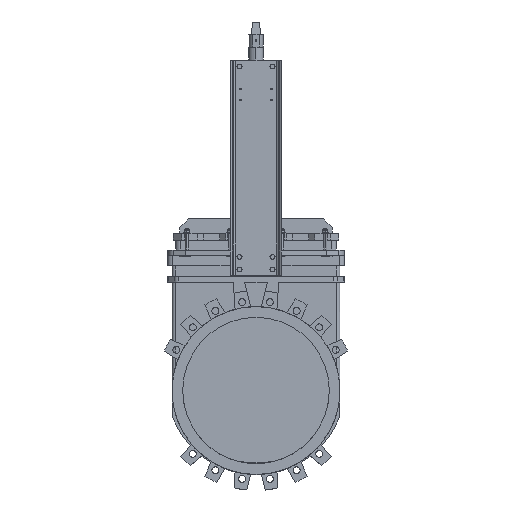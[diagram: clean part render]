
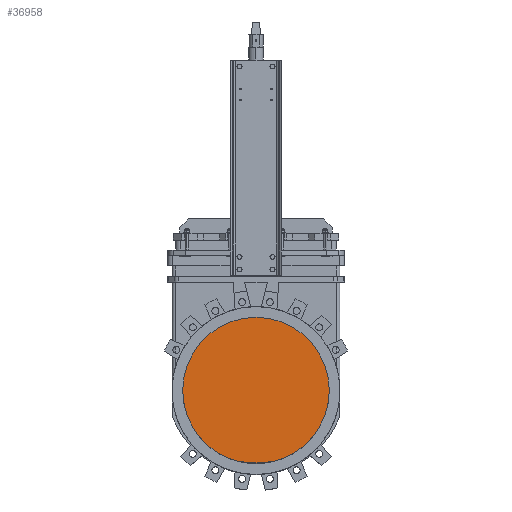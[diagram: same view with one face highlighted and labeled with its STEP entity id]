
A CAD part, top view. The second image highlights one B-rep face of the part: STEP entity #36958.
In plain terms, the highlighted planar face has unit normal (0, 0, 1).
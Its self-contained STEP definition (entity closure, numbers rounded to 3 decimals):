
#4571 = CARTESIAN_POINT ( 'NONE',  ( 187.737, -179.252, 6. ) ) ;
#4930 = CARTESIAN_POINT ( 'NONE',  ( 198.494, -168.494, 6. ) ) ;
#4931 = LINE ( 'NONE', #4930, #4997 ) ;
#4996 = DIRECTION ( 'NONE',  ( 0.707, 0.707, 0. ) ) ;
#4997 = VECTOR ( 'NONE', #4996, 1000. ) ;
#6024 = DIRECTION ( 'NONE',  ( 0., 1., 0. ) ) ;
#6025 = VECTOR ( 'NONE', #6024, 1000. ) ;
#6026 = CARTESIAN_POINT ( 'NONE',  ( 264.5, -344.538, 6. ) ) ;
#6027 = LINE ( 'NONE', #6026, #6025 ) ;
#6028 = DIRECTION ( 'NONE',  ( 0., 1., 0. ) ) ;
#6029 = VECTOR ( 'NONE', #6028, 1000. ) ;
#6030 = CARTESIAN_POINT ( 'NONE',  ( -264.5, -344.538, 6. ) ) ;
#6031 = LINE ( 'NONE', #6030, #6029 ) ;
#6065 = DIRECTION ( 'NONE',  ( 1., 0., 0. ) ) ;
#6066 = DIRECTION ( 'NONE',  ( 0., 0., 1. ) ) ;
#6067 = CARTESIAN_POINT ( 'NONE',  ( -264.5, -344.538, 6. ) ) ;
#6068 = AXIS2_PLACEMENT_3D ( 'NONE', #6067, #6066, #6065 ) ;
#6069 = PLANE ( 'NONE',  #6068 ) ;
#6070 = FACE_OUTER_BOUND ( 'NONE', #36965, .T. ) ;
#6944 = DIRECTION ( 'NONE',  ( 1., 0., 0. ) ) ;
#6945 = DIRECTION ( 'NONE',  ( 0., 0., 1. ) ) ;
#6946 = CARTESIAN_POINT ( 'NONE',  ( 0., 30., 6. ) ) ;
#6947 = AXIS2_PLACEMENT_3D ( 'NONE', #6946, #6945, #6944 ) ;
#6948 = CIRCLE ( 'NONE', #6947, 281.5 ) ;
#6949 = CARTESIAN_POINT ( 'NONE',  ( -183.622, -183.366, 6. ) ) ;
#6960 = CARTESIAN_POINT ( 'NONE',  ( 183.622, -183.366, 6. ) ) ;
#8951 = VERTEX_POINT ( 'NONE', #21295 ) ;
#8959 = EDGE_CURVE ( 'NONE', #8951, #9026, #21287, .T. ) ;
#9026 = VERTEX_POINT ( 'NONE', #21380 ) ;
#9857 = VERTEX_POINT ( 'NONE', #23118 ) ;
#9863 = EDGE_CURVE ( 'NONE', #9857, #9946, #23112, .T. ) ;
#9946 = VERTEX_POINT ( 'NONE', #23290 ) ;
#12182 = VERTEX_POINT ( 'NONE', #28536 ) ;
#12246 = EDGE_CURVE ( 'NONE', #12182, #12317, #28743, .T. ) ;
#12317 = VERTEX_POINT ( 'NONE', #28832 ) ;
#13757 = VERTEX_POINT ( 'NONE', #32110 ) ;
#13765 = EDGE_CURVE ( 'NONE', #37426, #13757, #32168, .T. ) ;
#13782 = EDGE_CURVE ( 'NONE', #24458, #9857, #32139, .T. ) ;
#13813 = EDGE_CURVE ( 'NONE', #13757, #9026, #32218, .T. ) ;
#21283 = DIRECTION ( 'NONE',  ( 1., 0., 0. ) ) ;
#21284 = DIRECTION ( 'NONE',  ( 0., 0., 1. ) ) ;
#21285 = CARTESIAN_POINT ( 'NONE',  ( 0., 30., 6. ) ) ;
#21286 = AXIS2_PLACEMENT_3D ( 'NONE', #21285, #21284, #21283 ) ;
#21287 = CIRCLE ( 'NONE', #21286, 281.5 ) ;
#21295 = CARTESIAN_POINT ( 'NONE',  ( -264.5, -66.343, 6. ) ) ;
#21380 = CARTESIAN_POINT ( 'NONE',  ( -188.002, -179.517, 6. ) ) ;
#23108 = DIRECTION ( 'NONE',  ( 1., 0., 0. ) ) ;
#23109 = DIRECTION ( 'NONE',  ( 0., 0., 1. ) ) ;
#23110 = CARTESIAN_POINT ( 'NONE',  ( 0., 30., 6. ) ) ;
#23111 = AXIS2_PLACEMENT_3D ( 'NONE', #23110, #23109, #23108 ) ;
#23112 = CIRCLE ( 'NONE', #23111, 281.5 ) ;
#23118 = CARTESIAN_POINT ( 'NONE',  ( 188.002, -179.517, 6. ) ) ;
#23290 = CARTESIAN_POINT ( 'NONE',  ( 264.5, -66.343, 6. ) ) ;
#24458 = VERTEX_POINT ( 'NONE', #4571 ) ;
#28536 = CARTESIAN_POINT ( 'NONE',  ( 264.5, 106.136, 6. ) ) ;
#28739 = DIRECTION ( 'NONE',  ( 1., 0., 0. ) ) ;
#28740 = DIRECTION ( 'NONE',  ( 0., 0., 1. ) ) ;
#28741 = CARTESIAN_POINT ( 'NONE',  ( 0., 0., 6. ) ) ;
#28742 = AXIS2_PLACEMENT_3D ( 'NONE', #28741, #28740, #28739 ) ;
#28743 = CIRCLE ( 'NONE', #28742, 285. ) ;
#28832 = CARTESIAN_POINT ( 'NONE',  ( -264.5, 106.136, 6. ) ) ;
#30242 = EDGE_CURVE ( 'NONE', #37421, #24458, #4931, .T. ) ;
#32110 = CARTESIAN_POINT ( 'NONE',  ( -187.737, -179.252, 6. ) ) ;
#32136 = DIRECTION ( 'NONE',  ( 0.707, -0.707, 0. ) ) ;
#32137 = VECTOR ( 'NONE', #32136, 1000. ) ;
#32138 = CARTESIAN_POINT ( 'NONE',  ( -10.757, 19.243, 6. ) ) ;
#32139 = LINE ( 'NONE', #32138, #32137 ) ;
#32165 = DIRECTION ( 'NONE',  ( -0.707, 0.707, 0. ) ) ;
#32166 = VECTOR ( 'NONE', #32165, 1000. ) ;
#32167 = CARTESIAN_POINT ( 'NONE',  ( -198.494, -168.494, 6. ) ) ;
#32168 = LINE ( 'NONE', #32167, #32166 ) ;
#32211 = DIRECTION ( 'NONE',  ( -0.707, -0.707, 0. ) ) ;
#32212 = VECTOR ( 'NONE', #32211, 1000. ) ;
#32213 = CARTESIAN_POINT ( 'NONE',  ( 10.757, 19.243, 6. ) ) ;
#32218 = LINE ( 'NONE', #32213, #32212 ) ;
#36907 = ORIENTED_EDGE ( 'NONE', *, *, #30242, .T. ) ;
#36926 = ORIENTED_EDGE ( 'NONE', *, *, #37427, .T. ) ;
#36940 = ORIENTED_EDGE ( 'NONE', *, *, #36942, .F. ) ;
#36942 = EDGE_CURVE ( 'NONE', #8951, #12317, #6031, .T. ) ;
#36946 = EDGE_CURVE ( 'NONE', #9946, #12182, #6027, .T. ) ;
#36947 = ORIENTED_EDGE ( 'NONE', *, *, #36946, .T. ) ;
#36955 = ORIENTED_EDGE ( 'NONE', *, *, #12246, .T. ) ;
#36958 = ADVANCED_FACE ( 'NONE', ( #6070 ), #6069, .T. ) ;
#36965 = EDGE_LOOP ( 'NONE', ( #36947, #36955, #36940, #37156, #37152, #37143, #36926, #36907, #37068, #37069 ) ) ;
#37068 = ORIENTED_EDGE ( 'NONE', *, *, #13782, .T. ) ;
#37069 = ORIENTED_EDGE ( 'NONE', *, *, #9863, .T. ) ;
#37143 = ORIENTED_EDGE ( 'NONE', *, *, #13765, .F. ) ;
#37152 = ORIENTED_EDGE ( 'NONE', *, *, #13813, .F. ) ;
#37156 = ORIENTED_EDGE ( 'NONE', *, *, #8959, .T. ) ;
#37421 = VERTEX_POINT ( 'NONE', #6960 ) ;
#37426 = VERTEX_POINT ( 'NONE', #6949 ) ;
#37427 = EDGE_CURVE ( 'NONE', #37426, #37421, #6948, .T. ) ;
